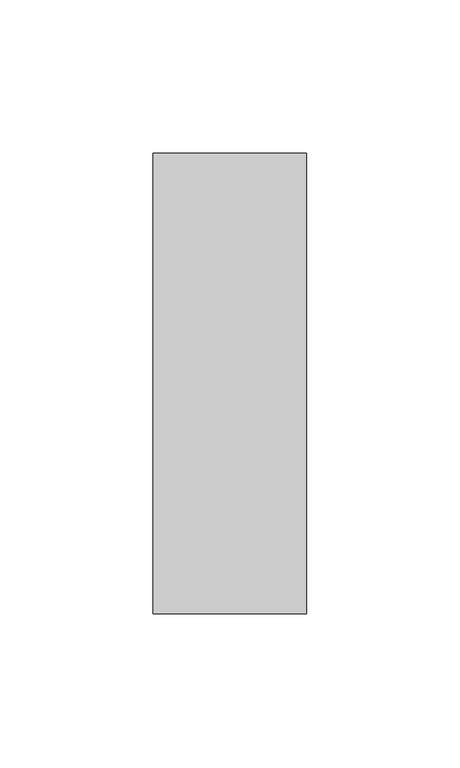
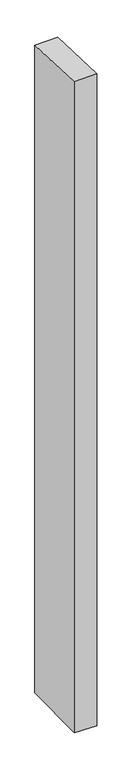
"""IFC4 building model written with IfcOpenShell, lengths in millimetres: member geometry, Прямоугольный импост : 50 x 150 мм."""

from ifc_helpers import new_model, si_unit, origin, place, context, project, spatial, faceted_brep, source, transform, mapped, element, save


def member_653c520e(model_context):
    return source(origin(), model_context, "Body", "Brep", [
        faceted_brep([(-25.0, 75.0, -3.3600419), (25.0, 75.0, -2.017979), (25.0, 75.0, -1518.8558692), (-25.0, 75.0, -1517.7333327), (-25.0, -75.0, 2.017979), (-25.0, -75.0, -1520.1526396), (25.0, -75.0, 3.3600419), (25.0, -75.0, -1521.2751762)], [[[0, 1, 2, 3]], [[4, 0, 3, 5]], [[6, 4, 5, 7]], [[1, 6, 7, 2]], [[1, 0, 4, 6]], [[2, 7, 5, 3]]]),
    ])


if __name__ == "__main__":
    model = new_model("IFC4")
    model_context = context("Model", 3, world=origin())
    ifc_project = project(units=[si_unit("LENGTHUNIT", "METRE", prefix="MILLI")], contexts=[model_context])
    site = spatial("IfcSite", under=ifc_project)
    building = spatial("IfcBuilding", under=site)
    placement = place(None, origin())
    member_shape = member_653c520e(model_context)
    element("IfcMember", 1, ObjectType="Прямоугольный импост : 50 x 150 мм", at=placement, inside=building, context=model_context, shape_type="MappedRepresentation", body=[
        mapped(member_shape, transform((0.0, 0.0, 0.0), x_axis=(1.0, 0.0, 0.0), y_axis=(0.0, 1.0, 0.0), z_axis=(0.0, 0.0, 1.0))),
    ])
    save(model, "model.ifc")
